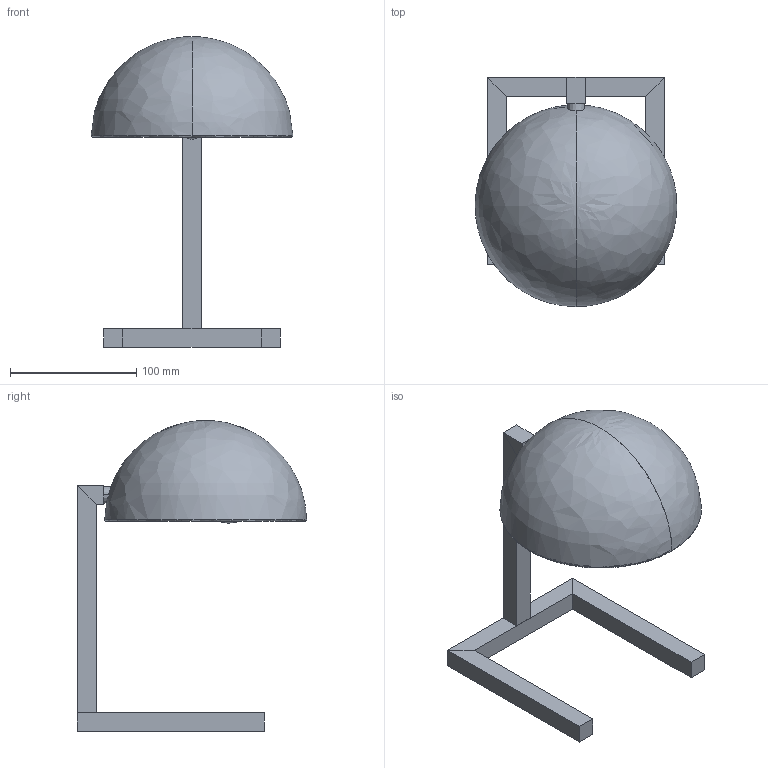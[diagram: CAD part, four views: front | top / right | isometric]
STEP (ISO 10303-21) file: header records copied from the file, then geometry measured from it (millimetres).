
FILE_DESCRIPTION(/* description */ (''),/* implementation_level */ '2;1');
FILE_NAME(/* name */ 'MJA',/* time_stamp */ '2012-06-01T14:47:41+02:00',/* author */ (''),/* organization */ (''),/* preprocessor_version */ 'ST-DEVELOPER v10',/* originating_system */ '',/* authorisation */ '');
FILE_SCHEMA (('CONFIG_CONTROL_DESIGN'));
Length unit declared in the file: millimetre
Products named in the file (1): 1
Bounding box: 159.89 x 181.68 x 246.5 mm (x, y, z)
Volume: 227553 mm3; surface area: 142035 mm2
Topology: 7 solids, 8 shells, 54 faces, 120 edges, 71 vertices
Faces by surface type: bspline 54
Entity records: 1950 total; most frequent: CARTESIAN_POINT 1172, ORIENTED_EDGE 218, EDGE_CURVE 110, B_SPLINE_CURVE_WITH_KNOTS 74, VERTEX_POINT 71, ADVANCED_FACE 54, FACE_OUTER_BOUND 54, EDGE_LOOP 54
